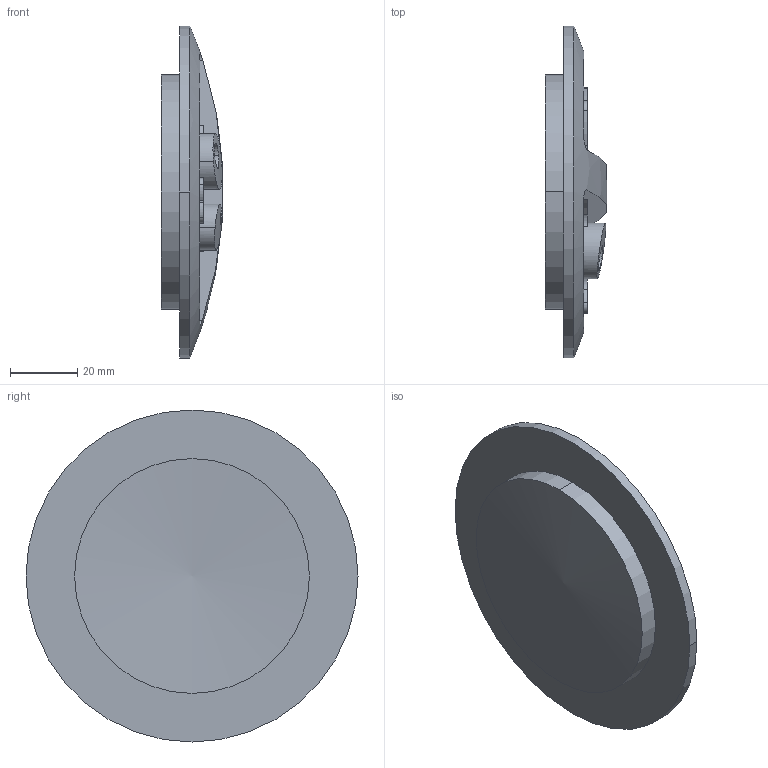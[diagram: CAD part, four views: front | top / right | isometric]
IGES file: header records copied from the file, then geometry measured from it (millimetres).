
Global section: file name: No Iges File Name specified; native system: AutoDesk Inventor R12.0; preprocessor: AutoDesk Inventor Iges Exporter R12.0; date: 20090202.122635; units: millimetre
Bounding box: 18.39 x 99 x 99 mm (x, y, z)
Volume: 60256.1 mm3; surface area: 20651.5 mm2
Topology: 1 solids, 1 shells, 63 faces, 173 edges, 117 vertices
Faces by surface type: cylinder 24, revolution 23, plane 11, sphere 4, bspline 1
